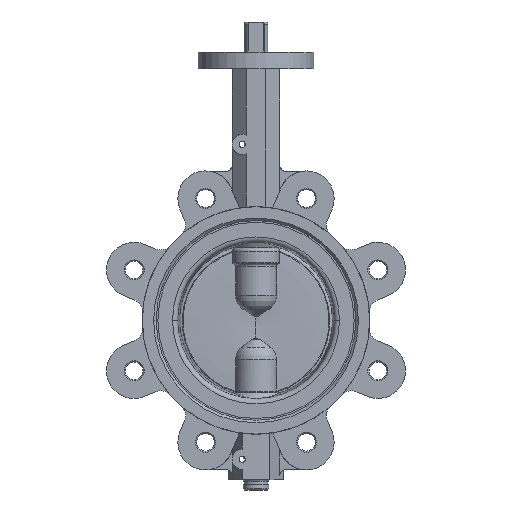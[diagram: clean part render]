
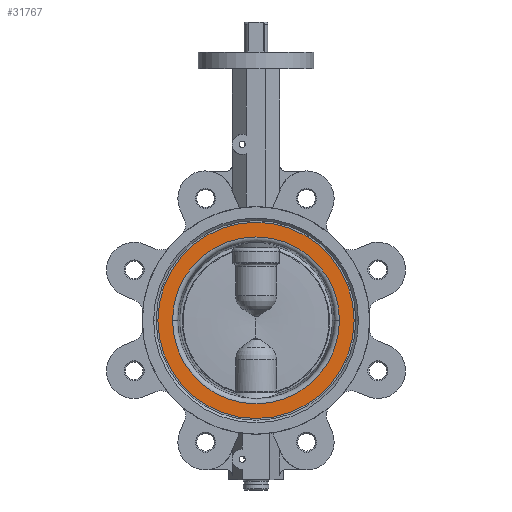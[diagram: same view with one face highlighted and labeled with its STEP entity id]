
A CAD part, left-side view. The second image highlights one B-rep face of the part: STEP entity #31767.
In plain terms, the highlighted planar face has unit normal (-1, 0, 0).
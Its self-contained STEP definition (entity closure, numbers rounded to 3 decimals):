
#30047 = TOROIDAL_SURFACE('',#30048,66.447,4.);
#30048 = AXIS2_PLACEMENT_3D('',#30049,#30050,#30051);
#30049 = CARTESIAN_POINT('',(-25.4,-12.249,-85.25));
#30050 = DIRECTION('',(-1.,0.,0.));
#30051 = DIRECTION('',(0.,-1.,0.));
#30107 = EDGE_CURVE('',#30108,#30110,#30112,.T.);
#30108 = VERTEX_POINT('',#30109);
#30109 = CARTESIAN_POINT('',(-29.4,-78.696,-85.25));
#30110 = VERTEX_POINT('',#30111);
#30111 = CARTESIAN_POINT('',(-29.4,54.199,-85.25));
#30112 = SURFACE_CURVE('',#30113,(#30118,#30130),.PCURVE_S1.);
#30113 = CIRCLE('',#30114,66.447);
#30114 = AXIS2_PLACEMENT_3D('',#30115,#30116,#30117);
#30115 = CARTESIAN_POINT('',(-29.4,-12.249,-85.25));
#30116 = DIRECTION('',(-1.,0.,0.));
#30117 = DIRECTION('',(0.,-1.,0.));
#30118 = PCURVE('',#30119,#30124);
#30119 = TOROIDAL_SURFACE('',#30120,66.447,4.);
#30120 = AXIS2_PLACEMENT_3D('',#30121,#30122,#30123);
#30121 = CARTESIAN_POINT('',(-25.4,-12.249,-85.25));
#30122 = DIRECTION('',(-1.,0.,0.));
#30123 = DIRECTION('',(0.,-1.,0.));
#30124 = DEFINITIONAL_REPRESENTATION('',(#30125),#30129);
#30125 = LINE('',#30126,#30127);
#30126 = CARTESIAN_POINT('',(0.,1.571));
#30127 = VECTOR('',#30128,1.);
#30128 = DIRECTION('',(1.,0.));
#30129 = ( GEOMETRIC_REPRESENTATION_CONTEXT(2) 
PARAMETRIC_REPRESENTATION_CONTEXT() REPRESENTATION_CONTEXT('2D SPACE',''
  ) );
#30130 = PCURVE('',#30131,#30136);
#30131 = PLANE('',#30132);
#30132 = AXIS2_PLACEMENT_3D('',#30133,#30134,#30135);
#30133 = CARTESIAN_POINT('',(-29.4,-12.249,-7.15));
#30134 = DIRECTION('',(1.,0.,0.));
#30135 = DIRECTION('',(0.,1.,0.));
#30136 = DEFINITIONAL_REPRESENTATION('',(#30137),#30145);
#30137 = ( BOUNDED_CURVE() B_SPLINE_CURVE(2,(#30138,#30139,#30140,#30141
    ,#30142,#30143,#30144),.UNSPECIFIED.,.T.,.F.) 
B_SPLINE_CURVE_WITH_KNOTS((1,2,2,2,2,1),(-2.094,0.,
    2.094,4.189,6.283,8.378),
.UNSPECIFIED.) CURVE() GEOMETRIC_REPRESENTATION_ITEM() 
RATIONAL_B_SPLINE_CURVE((1.,0.5,1.,0.5,1.,0.5,1.)) REPRESENTATION_ITEM(
  '') );
#30138 = CARTESIAN_POINT('',(-66.447,-78.1));
#30139 = CARTESIAN_POINT('',(-66.447,36.99));
#30140 = CARTESIAN_POINT('',(33.224,-20.555));
#30141 = CARTESIAN_POINT('',(132.895,-78.1));
#30142 = CARTESIAN_POINT('',(33.224,-135.645));
#30143 = CARTESIAN_POINT('',(-66.447,-193.19));
#30144 = CARTESIAN_POINT('',(-66.447,-78.1));
#30145 = ( GEOMETRIC_REPRESENTATION_CONTEXT(2) 
PARAMETRIC_REPRESENTATION_CONTEXT() REPRESENTATION_CONTEXT('2D SPACE',''
  ) );
#30228 = CYLINDRICAL_SURFACE('',#30229,78.1);
#30229 = AXIS2_PLACEMENT_3D('',#30230,#30231,#30232);
#30230 = CARTESIAN_POINT('',(-95.611,-12.249,
    -85.25));
#30231 = DIRECTION('',(-1.,0.,0.));
#30232 = DIRECTION('',(0.,-1.,0.));
#30257 = VERTEX_POINT('',#30258);
#30258 = CARTESIAN_POINT('',(-29.4,65.851,-85.25));
#30272 = CYLINDRICAL_SURFACE('',#30273,78.1);
#30273 = AXIS2_PLACEMENT_3D('',#30274,#30275,#30276);
#30274 = CARTESIAN_POINT('',(-95.611,-12.249,
    -85.25));
#30275 = DIRECTION('',(-1.,0.,0.));
#30276 = DIRECTION('',(0.,-1.,0.));
#30284 = EDGE_CURVE('',#30285,#30257,#30287,.T.);
#30285 = VERTEX_POINT('',#30286);
#30286 = CARTESIAN_POINT('',(-29.4,-90.349,-85.25));
#30287 = SURFACE_CURVE('',#30288,(#30293,#30300),.PCURVE_S1.);
#30288 = CIRCLE('',#30289,78.1);
#30289 = AXIS2_PLACEMENT_3D('',#30290,#30291,#30292);
#30290 = CARTESIAN_POINT('',(-29.4,-12.249,-85.25));
#30291 = DIRECTION('',(-1.,0.,0.));
#30292 = DIRECTION('',(0.,-1.,0.));
#30293 = PCURVE('',#30228,#30294);
#30294 = DEFINITIONAL_REPRESENTATION('',(#30295),#30299);
#30295 = LINE('',#30296,#30297);
#30296 = CARTESIAN_POINT('',(0.,-66.211));
#30297 = VECTOR('',#30298,1.);
#30298 = DIRECTION('',(1.,0.));
#30299 = ( GEOMETRIC_REPRESENTATION_CONTEXT(2) 
PARAMETRIC_REPRESENTATION_CONTEXT() REPRESENTATION_CONTEXT('2D SPACE',''
  ) );
#30300 = PCURVE('',#30131,#30301);
#30301 = DEFINITIONAL_REPRESENTATION('',(#30302),#30310);
#30302 = ( BOUNDED_CURVE() B_SPLINE_CURVE(2,(#30303,#30304,#30305,#30306
    ,#30307,#30308,#30309),.UNSPECIFIED.,.T.,.F.) 
B_SPLINE_CURVE_WITH_KNOTS((1,2,2,2,2,1),(-2.094,0.,
    2.094,4.189,6.283,8.378),
.UNSPECIFIED.) CURVE() GEOMETRIC_REPRESENTATION_ITEM() 
RATIONAL_B_SPLINE_CURVE((1.,0.5,1.,0.5,1.,0.5,1.)) REPRESENTATION_ITEM(
  '') );
#30303 = CARTESIAN_POINT('',(-78.1,-78.1));
#30304 = CARTESIAN_POINT('',(-78.1,57.173));
#30305 = CARTESIAN_POINT('',(39.05,-10.463));
#30306 = CARTESIAN_POINT('',(156.2,-78.1));
#30307 = CARTESIAN_POINT('',(39.05,-145.737));
#30308 = CARTESIAN_POINT('',(-78.1,-213.373));
#30309 = CARTESIAN_POINT('',(-78.1,-78.1));
#30310 = ( GEOMETRIC_REPRESENTATION_CONTEXT(2) 
PARAMETRIC_REPRESENTATION_CONTEXT() REPRESENTATION_CONTEXT('2D SPACE',''
  ) );
#31742 = EDGE_CURVE('',#30257,#30285,#31743,.T.);
#31743 = SURFACE_CURVE('',#31744,(#31749,#31756),.PCURVE_S1.);
#31744 = CIRCLE('',#31745,78.1);
#31745 = AXIS2_PLACEMENT_3D('',#31746,#31747,#31748);
#31746 = CARTESIAN_POINT('',(-29.4,-12.249,-85.25));
#31747 = DIRECTION('',(-1.,0.,0.));
#31748 = DIRECTION('',(0.,-1.,0.));
#31749 = PCURVE('',#30272,#31750);
#31750 = DEFINITIONAL_REPRESENTATION('',(#31751),#31755);
#31751 = LINE('',#31752,#31753);
#31752 = CARTESIAN_POINT('',(0.,-66.211));
#31753 = VECTOR('',#31754,1.);
#31754 = DIRECTION('',(1.,0.));
#31755 = ( GEOMETRIC_REPRESENTATION_CONTEXT(2) 
PARAMETRIC_REPRESENTATION_CONTEXT() REPRESENTATION_CONTEXT('2D SPACE',''
  ) );
#31756 = PCURVE('',#30131,#31757);
#31757 = DEFINITIONAL_REPRESENTATION('',(#31758),#31766);
#31758 = ( BOUNDED_CURVE() B_SPLINE_CURVE(2,(#31759,#31760,#31761,#31762
    ,#31763,#31764,#31765),.UNSPECIFIED.,.T.,.F.) 
B_SPLINE_CURVE_WITH_KNOTS((1,2,2,2,2,1),(-2.094,0.,
    2.094,4.189,6.283,8.378),
.UNSPECIFIED.) CURVE() GEOMETRIC_REPRESENTATION_ITEM() 
RATIONAL_B_SPLINE_CURVE((1.,0.5,1.,0.5,1.,0.5,1.)) REPRESENTATION_ITEM(
  '') );
#31759 = CARTESIAN_POINT('',(-78.1,-78.1));
#31760 = CARTESIAN_POINT('',(-78.1,57.173));
#31761 = CARTESIAN_POINT('',(39.05,-10.463));
#31762 = CARTESIAN_POINT('',(156.2,-78.1));
#31763 = CARTESIAN_POINT('',(39.05,-145.737));
#31764 = CARTESIAN_POINT('',(-78.1,-213.373));
#31765 = CARTESIAN_POINT('',(-78.1,-78.1));
#31766 = ( GEOMETRIC_REPRESENTATION_CONTEXT(2) 
PARAMETRIC_REPRESENTATION_CONTEXT() REPRESENTATION_CONTEXT('2D SPACE',''
  ) );
#31767 = ADVANCED_FACE('',(#31768,#31797),#30131,.F.);
#31768 = FACE_BOUND('',#31769,.T.);
#31769 = EDGE_LOOP('',(#31770,#31771));
#31770 = ORIENTED_EDGE('',*,*,#30107,.F.);
#31771 = ORIENTED_EDGE('',*,*,#31772,.F.);
#31772 = EDGE_CURVE('',#30110,#30108,#31773,.T.);
#31773 = SURFACE_CURVE('',#31774,(#31779,#31790),.PCURVE_S1.);
#31774 = CIRCLE('',#31775,66.447);
#31775 = AXIS2_PLACEMENT_3D('',#31776,#31777,#31778);
#31776 = CARTESIAN_POINT('',(-29.4,-12.249,-85.25));
#31777 = DIRECTION('',(-1.,0.,0.));
#31778 = DIRECTION('',(0.,-1.,0.));
#31779 = PCURVE('',#30131,#31780);
#31780 = DEFINITIONAL_REPRESENTATION('',(#31781),#31789);
#31781 = ( BOUNDED_CURVE() B_SPLINE_CURVE(2,(#31782,#31783,#31784,#31785
    ,#31786,#31787,#31788),.UNSPECIFIED.,.T.,.F.) 
B_SPLINE_CURVE_WITH_KNOTS((1,2,2,2,2,1),(-2.094,0.,
    2.094,4.189,6.283,8.378),
.UNSPECIFIED.) CURVE() GEOMETRIC_REPRESENTATION_ITEM() 
RATIONAL_B_SPLINE_CURVE((1.,0.5,1.,0.5,1.,0.5,1.)) REPRESENTATION_ITEM(
  '') );
#31782 = CARTESIAN_POINT('',(-66.447,-78.1));
#31783 = CARTESIAN_POINT('',(-66.447,36.99));
#31784 = CARTESIAN_POINT('',(33.224,-20.555));
#31785 = CARTESIAN_POINT('',(132.895,-78.1));
#31786 = CARTESIAN_POINT('',(33.224,-135.645));
#31787 = CARTESIAN_POINT('',(-66.447,-193.19));
#31788 = CARTESIAN_POINT('',(-66.447,-78.1));
#31789 = ( GEOMETRIC_REPRESENTATION_CONTEXT(2) 
PARAMETRIC_REPRESENTATION_CONTEXT() REPRESENTATION_CONTEXT('2D SPACE',''
  ) );
#31790 = PCURVE('',#30047,#31791);
#31791 = DEFINITIONAL_REPRESENTATION('',(#31792),#31796);
#31792 = LINE('',#31793,#31794);
#31793 = CARTESIAN_POINT('',(0.,1.571));
#31794 = VECTOR('',#31795,1.);
#31795 = DIRECTION('',(1.,0.));
#31796 = ( GEOMETRIC_REPRESENTATION_CONTEXT(2) 
PARAMETRIC_REPRESENTATION_CONTEXT() REPRESENTATION_CONTEXT('2D SPACE',''
  ) );
#31797 = FACE_BOUND('',#31798,.T.);
#31798 = EDGE_LOOP('',(#31799,#31800));
#31799 = ORIENTED_EDGE('',*,*,#30284,.T.);
#31800 = ORIENTED_EDGE('',*,*,#31742,.T.);
